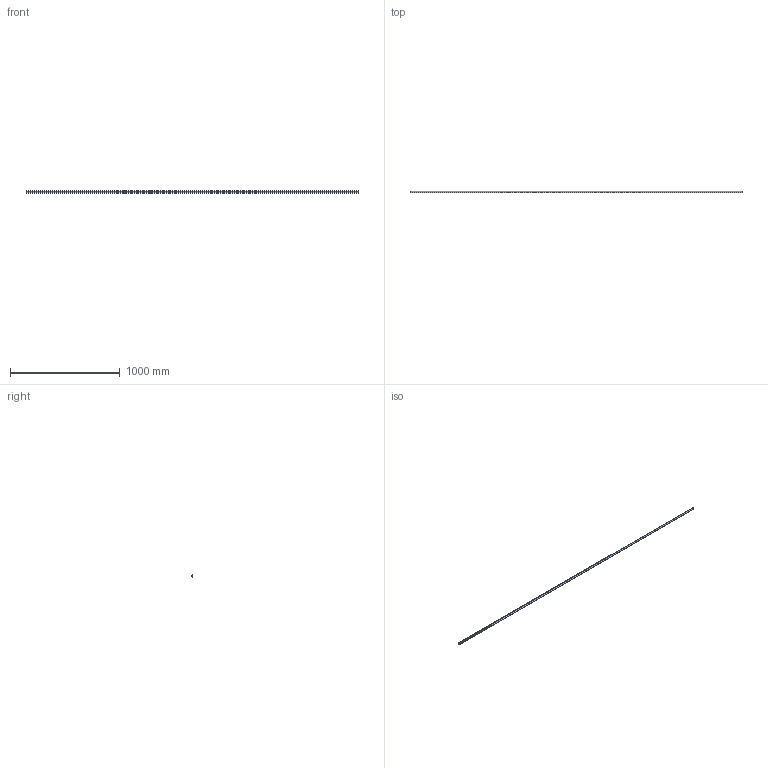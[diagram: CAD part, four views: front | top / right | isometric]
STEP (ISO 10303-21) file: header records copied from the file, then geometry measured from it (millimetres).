
FILE_DESCRIPTION (( 'STEP AP203' ), '1' );
FILE_NAME ('Halfround Cover.STEP', '2026-04-20T14:04:25', ( '' ), ( '' ), 'SwSTEP 2.0', 'SolidWorks 2025', '' );
FILE_SCHEMA (( 'CONFIG_CONTROL_DESIGN' ));
Length unit declared in the file: millimetre
Products named in the file (1): Halfround Cover
Bounding box: 3020 x 9.97 x 20.87 mm (x, y, z)
Volume: 153712.6 mm3; surface area: 183564.2 mm2
Topology: 1 solids, 1 shells, 18 faces, 48 edges, 32 vertices
Faces by surface type: cylinder 10, plane 8
Entity records: 649 total; most frequent: DIRECTION 106, CARTESIAN_POINT 99, ORIENTED_EDGE 96, EDGE_CURVE 48, AXIS2_PLACEMENT_3D 39, VERTEX_POINT 32, LINE 28, VECTOR 28
